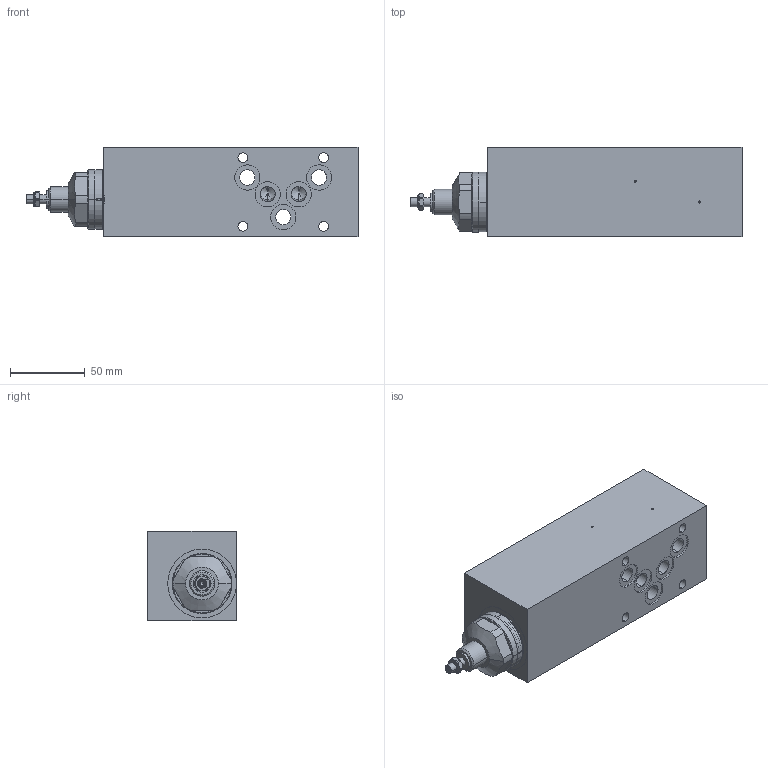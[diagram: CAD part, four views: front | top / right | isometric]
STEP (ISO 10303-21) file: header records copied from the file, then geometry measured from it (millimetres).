
FILE_DESCRIPTION (( 'STEP AP214' ), '1' );
FILE_NAME ('QDSSA10-P.STEP', '2017-04-12T13:54:31', ( '' ), ( '' ), 'SwSTEP 2.0', 'SolidWorks 2016', '' );
FILE_SCHEMA (( 'AUTOMOTIVE_DESIGN' ));
Length unit declared in the file: millimetre
Products named in the file (1): QDSSA10-P
Bounding box: 222 x 59.5 x 60 mm (x, y, z)
Volume: 602418.6 mm3; surface area: 72440.3 mm2
Topology: 6 solids, 10 shells, 323 faces, 749 edges, 450 vertices
Faces by surface type: cylinder 136, cone 84, plane 83, sphere 12, torus 8
Entity records: 12861 total; most frequent: CARTESIAN_POINT 1866, DIRECTION 1666, ORIENTED_EDGE 1442, EDGE_CURVE 721, AXIS2_PLACEMENT_3D 686, VERTEX_POINT 450, EDGE_LOOP 373, CIRCLE 362
